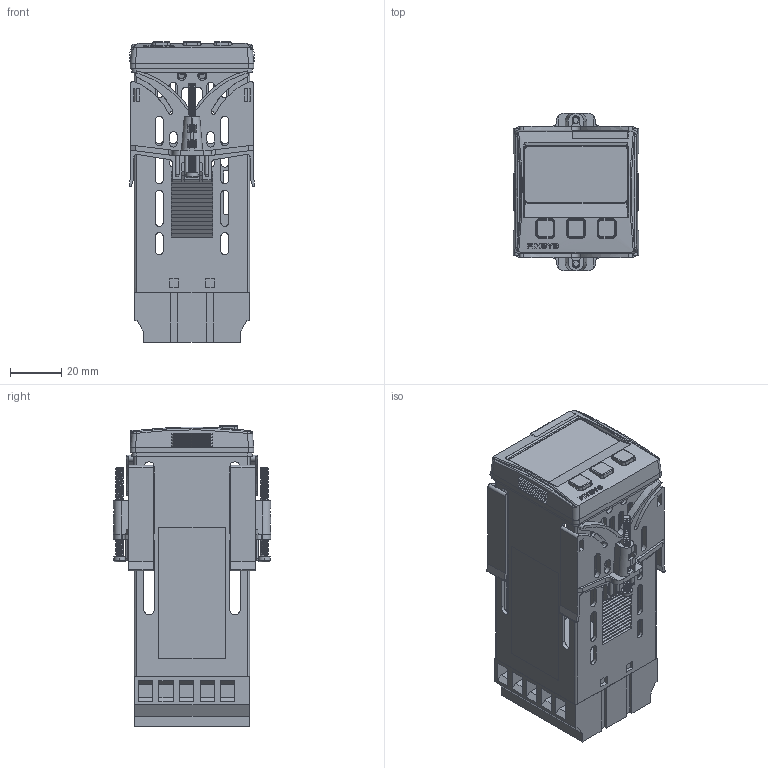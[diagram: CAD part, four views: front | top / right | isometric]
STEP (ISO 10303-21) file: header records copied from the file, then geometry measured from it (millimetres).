
FILE_DESCRIPTION((''),'2;1');
FILE_NAME('ATR_243_B_SW0001','2013-09-25T',('emiliano'),('NYSS'),'PRO/ENGINEER BY PARAMETRIC TECHNOLOGY CORPORATION, 2010280','PRO/ENGINEER BY PARAMETRIC TECHNOLOGY CORPORATION, 2010280','');
FILE_SCHEMA(('CONFIG_CONTROL_DESIGN','SHAPE_APPEARANCE_LAYERS_GROUPS'));
Products named in the file (1): ATR_243_B_SW0001
Bounding box: 48.91 x 61.2 x 116.95 mm (x, y, z)
Volume: 73654.6 mm3; surface area: 71201.1 mm2
Topology: 1 solids, 1 shells, 2180 faces, 6369 edges, 4119 vertices
Faces by surface type: plane 1258, cylinder 592, bspline 212, extrusion 76, torus 20, cone 20, sphere 2
Entity records: 130966 total; most frequent: CARTESIAN_POINT 61453, ORIENTED_EDGE 12678, DIRECTION 10571, EDGE_CURVE 6339, VERTEX_POINT 4119, VECTOR 4051, LINE 3975, AXIS2_PLACEMENT_3D 3260
